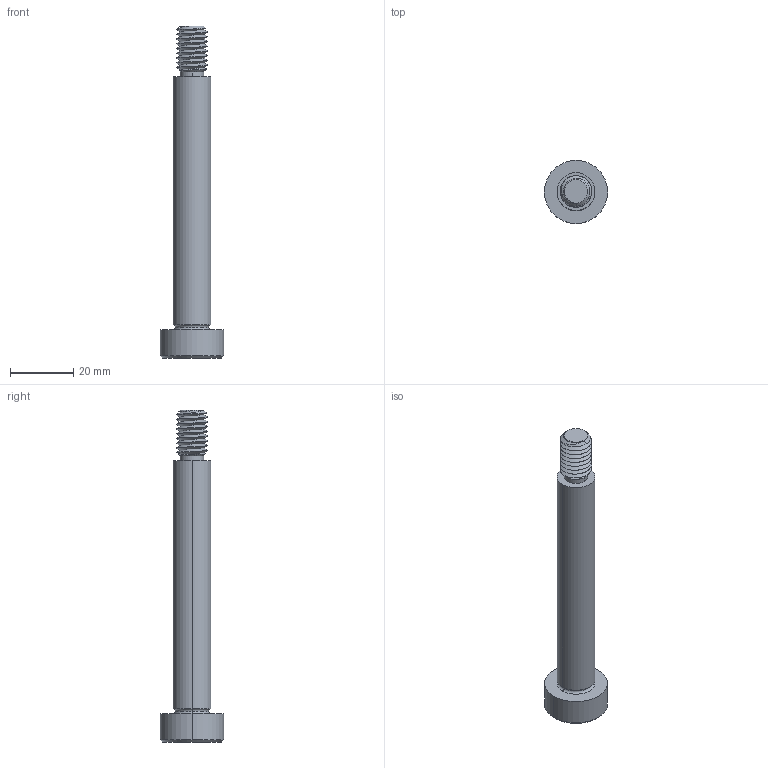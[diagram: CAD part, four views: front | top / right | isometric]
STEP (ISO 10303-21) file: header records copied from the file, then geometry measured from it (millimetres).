
FILE_DESCRIPTION (( 'STEP AP203' ), '1' );
FILE_NAME ('P0130.120-080-B2.step', '2021-11-09T22:11:00', ( '' ), ( '' ), 'SwSTEP 2.0', 'SolidWorks 2019', '' );
FILE_SCHEMA (( 'CONFIG_CONTROL_DESIGN' ));
Length unit declared in the file: millimetre
Products named in the file (1): P0130.120-080-B2
Bounding box: 20 x 20 x 105 mm (x, y, z)
Volume: 12535.7 mm3; surface area: 5136 mm2
Topology: 1 solids, 1 shells, 60 faces, 142 edges, 85 vertices
Faces by surface type: cylinder 23, plane 16, cone 15, torus 4, bspline 2
Entity records: 3534 total; most frequent: CARTESIAN_POINT 2187, ORIENTED_EDGE 280, DIRECTION 247, EDGE_CURVE 140, AXIS2_PLACEMENT_3D 99, VERTEX_POINT 85, EDGE_LOOP 63, ADVANCED_FACE 60
